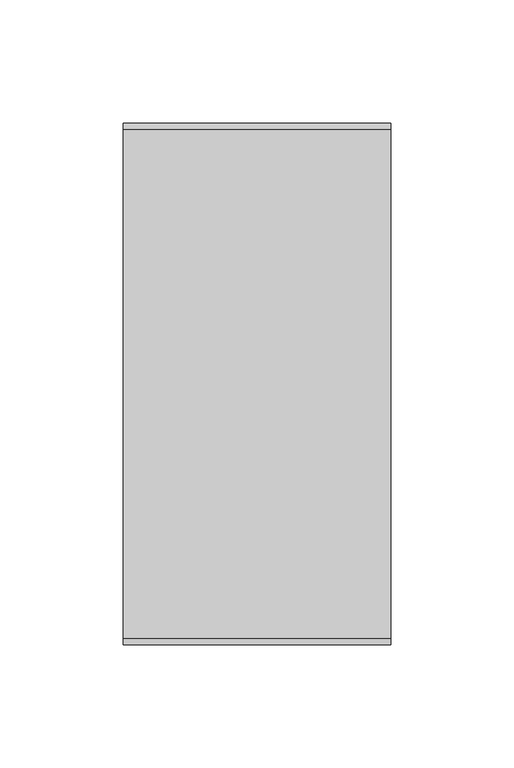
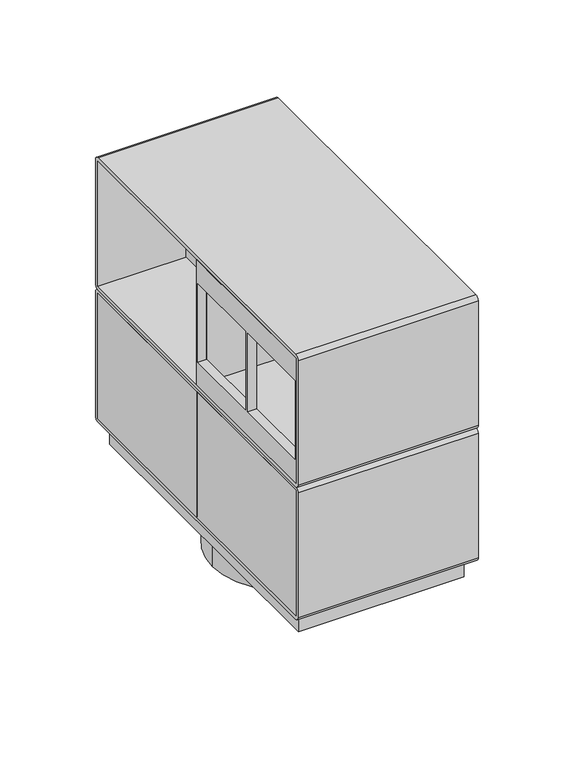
"""IFC4 building model written with IfcOpenShell, lengths in millimetres: proxy geometry, Electrical_Installation_Hager_VE-EE_Pedestal-box-8 : GB pedestal box 8 inst. fields iron gray."""

from ifc_helpers import new_model, si_unit, point, frame, frame_2d, origin, origin_with_axes, origin_2d, place, context, project, spatial, polyline, circle_curve, trimmed, segment, composite_curve, outline, extrude, source, transform, mapped, element, save


def electrical_fixtures_403837cc(model_context):
    return source(origin(), model_context, "Body", "SweptSolid", [
        extrude(outline(polyline([(1.25, -0.764292), (1.25, 0.764292), (48.9, 0.764292), (48.9, -0.764292), (1.25, -0.764292)])), frame((0.0, 0.0, 99.3), z_axis=(0.0, 0.0, 1.0), x_axis=(1.0, 0.0, 0.0)), (0.0, 0.0, 1.0), 79.9),
        extrude(outline(polyline([(-1.25, 0.764292), (-1.25, -0.764292), (-48.9, -0.764292), (-48.9, 0.764292), (-1.25, 0.764292)])), frame((0.0, 0.0, 99.3), z_axis=(0.0, 0.0, 1.0), x_axis=(1.0, 0.0, 0.0)), (0.0, 0.0, 1.0), 79.9),
        extrude(outline(polyline([(0.0, 179.2), (0.0, 99.3), (-103.7, 99.3), (-103.7, 179.2), (0.0, 179.2)]), holes=[polyline([(-52.935708, 164.25), (-102.935708, 164.25), (-102.935708, 114.25), (-52.935708, 114.25), (-52.935708, 164.25)]), polyline([(-50.764292, 164.25), (-50.764292, 114.25), (-0.764292, 114.25), (-0.764292, 164.25), (-50.764292, 164.25)])]), frame((-54.4, 0.0, 0.0), z_axis=(1.0, 0.0, 0.0), x_axis=(0.0, 1.0, 0.0)), (0.0, 0.0, 1.0), 5.5),
        extrude(outline(polyline([(0.0, 179.2), (103.7, 179.2), (103.7, 99.3), (0.0, 99.3), (0.0, 179.2)]), holes=[polyline([(52.935708, 164.25), (52.935708, 114.25), (102.935708, 114.25), (102.935708, 164.25), (52.935708, 164.25)]), polyline([(50.764292, 164.25), (0.764292, 164.25), (0.764292, 114.25), (50.764292, 114.25), (50.764292, 164.25)])]), frame((48.9, 0.0, 0.0), z_axis=(1.0, 0.0, 0.0), x_axis=(0.0, 1.0, 0.0)), (0.0, 0.0, 1.0), 5.5),
        extrude(outline(composite_curve([segment(polyline([(-103.5, 181.5), (103.5, 181.5)]), True, "CONTINUOUS"), segment(trimmed(circle_curve(frame_2d((103.5, 179.0)), 2.5), [point((103.5, 181.5))], [point((106.0, 179.0))], False, "CARTESIAN"), True, "CONTINUOUS"), segment(polyline([(106.0, 179.0), (106.0, 99.5)]), True, "CONTINUOUS"), segment(trimmed(circle_curve(frame_2d((103.5, 99.5)), 2.5), [point((106.0, 99.5))], [point((103.5, 97.0))], False, "CARTESIAN"), True, "CONTINUOUS"), segment(polyline([(103.5, 97.0), (-103.5, 97.0)]), True, "CONTINUOUS"), segment(trimmed(circle_curve(frame_2d((-103.5, 99.5)), 2.5), [point((-103.5, 97.0))], [point((-106.0, 99.5))], False, "CARTESIAN"), True, "CONTINUOUS"), segment(polyline([(-106.0, 99.5), (-106.0, 179.0)]), True, "CONTINUOUS"), segment(trimmed(circle_curve(frame_2d((-103.5, 179.0)), 2.5), [point((-106.0, 179.0))], [point((-103.5, 181.5))], False, "CARTESIAN"), True, "CONTINUOUS")], self_intersect=False), holes=[polyline([(-103.7, 179.2), (-103.7, 99.3), (103.7, 99.3), (103.7, 179.2), (-103.7, 179.2)])]), frame((-54.4, 0.0, 0.0), z_axis=(1.0, 0.0, 0.0), x_axis=(0.0, 1.0, 0.0)), (0.0, 0.0, 1.0), 108.8),
        extrude(outline(polyline([(1.25, 103.7), (1.25, -103.7), (-1.25, -103.7), (-1.25, 103.7), (1.25, 103.7)])), frame((0.0, 0.0, 99.3), z_axis=(0.0, 0.0, 1.0), x_axis=(1.0, 0.0, 0.0)), (0.0, 0.0, 1.0), 79.9),
        extrude(outline(polyline([(1.25, -0.764292), (1.25, 0.764292), (48.9, 0.764292), (48.9, -0.764292), (1.25, -0.764292)])), frame((0.0, 0.0, 14.8), z_axis=(0.0, 0.0, 1.0), x_axis=(1.0, 0.0, 0.0)), (0.0, 0.0, 1.0), 79.9),
        extrude(outline(polyline([(-1.25, 0.764292), (-1.25, -0.764292), (-48.9, -0.764292), (-48.9, 0.764292), (-1.25, 0.764292)])), frame((0.0, 0.0, 14.8), z_axis=(0.0, 0.0, 1.0), x_axis=(1.0, 0.0, 0.0)), (0.0, 0.0, 1.0), 79.9),
        extrude(outline(polyline([(-54.4, 0.0), (-54.4, 103.7), (-48.9, 103.7), (-48.9, 0.0), (-54.4, 0.0)])), frame((0.0, 0.0, 14.8), z_axis=(0.0, 0.0, 1.0), x_axis=(1.0, 0.0, 0.0)), (0.0, 0.0, 1.0), 79.9),
        extrude(outline(polyline([(-54.4, -103.7), (-54.4, 0.0), (-48.9, 0.0), (-48.9, -103.7), (-54.4, -103.7)])), frame((0.0, 0.0, 14.8), z_axis=(0.0, 0.0, 1.0), x_axis=(1.0, 0.0, 0.0)), (0.0, 0.0, 1.0), 79.9),
        extrude(outline(polyline([(0.0, 94.7), (103.7, 94.7), (103.7, 14.8), (0.0, 14.8), (0.0, 94.7)]), holes=[polyline([(52.935708, 79.75), (52.935708, 29.75), (102.935708, 29.75), (102.935708, 79.75), (52.935708, 79.75)]), polyline([(50.764292, 79.75), (0.764292, 79.75), (0.764292, 29.75), (50.764292, 29.75), (50.764292, 79.75)])]), frame((48.9, 0.0, 0.0), z_axis=(1.0, 0.0, 0.0), x_axis=(0.0, 1.0, 0.0)), (0.0, 0.0, 1.0), 5.5),
        extrude(outline(composite_curve([segment(polyline([(-103.5, 97.0), (103.5, 97.0)]), True, "CONTINUOUS"), segment(trimmed(circle_curve(frame_2d((103.5, 94.5)), 2.5), [point((103.5, 97.0))], [point((106.0, 94.5))], False, "CARTESIAN"), True, "CONTINUOUS"), segment(polyline([(106.0, 94.5), (106.0, 15.0)]), True, "CONTINUOUS"), segment(trimmed(circle_curve(frame_2d((103.5, 15.0)), 2.5), [point((106.0, 15.0))], [point((103.5, 12.5))], False, "CARTESIAN"), True, "CONTINUOUS"), segment(polyline([(103.5, 12.5), (-103.5, 12.5)]), True, "CONTINUOUS"), segment(trimmed(circle_curve(frame_2d((-103.5, 15.0)), 2.5), [point((-103.5, 12.5))], [point((-106.0, 15.0))], False, "CARTESIAN"), True, "CONTINUOUS"), segment(polyline([(-106.0, 15.0), (-106.0, 94.5)]), True, "CONTINUOUS"), segment(trimmed(circle_curve(frame_2d((-103.5, 94.5)), 2.5), [point((-106.0, 94.5))], [point((-103.5, 97.0))], False, "CARTESIAN"), True, "CONTINUOUS")], self_intersect=False), holes=[polyline([(-103.7, 94.7), (-103.7, 14.8), (103.7, 14.8), (103.7, 94.7), (-103.7, 94.7)])]), frame((-54.4, 0.0, 0.0), z_axis=(1.0, 0.0, 0.0), x_axis=(0.0, 1.0, 0.0)), (0.0, 0.0, 1.0), 108.8),
        extrude(outline(polyline([(54.4, 0.0), (54.4, -103.7), (48.9, -103.7), (48.9, 0.0), (54.4, 0.0)])), frame((0.0, 0.0, 14.8), z_axis=(0.0, 0.0, 1.0), x_axis=(1.0, 0.0, 0.0)), (0.0, 0.0, 1.0), 79.9),
        extrude(outline(composite_curve([segment(trimmed(circle_curve(origin_2d(), 45.0), [point((-45.0, 0.0))], [point((45.0, 0.0))], False, "CARTESIAN"), True, "CONTINUOUS"), segment(trimmed(circle_curve(origin_2d(), 45.0), [point((45.0, 0.0))], [point((-45.0, 0.0))], False, "CARTESIAN"), True, "CONTINUOUS")], self_intersect=False), holes=[composite_curve([segment(trimmed(circle_curve(origin_2d(), 27.5), [point((-27.5, 0.0))], [point((27.5, 0.0))], True, "CARTESIAN"), True, "CONTINUOUS"), segment(trimmed(circle_curve(origin_2d(), 27.5), [point((27.5, 0.0))], [point((-27.5, 0.0))], True, "CARTESIAN"), True, "CONTINUOUS")], self_intersect=False)]), frame((0.0, 0.0, -20.0), z_axis=(0.0, 0.0, 1.0), x_axis=(1.0, 0.0, 0.0)), (0.0, 0.0, 1.0), 20.0),
        extrude(outline(polyline([(1.25, 103.7), (1.25, -103.7), (-1.25, -103.7), (-1.25, 103.7), (1.25, 103.7)])), frame((0.0, 0.0, 14.8), z_axis=(0.0, 0.0, 1.0), x_axis=(1.0, 0.0, 0.0)), (0.0, 0.0, 1.0), 79.9),
        extrude(outline(polyline([(50.0, -98.7), (-50.0, -98.7), (-50.0, 98.7), (50.0, 98.7), (50.0, -98.7)]), holes=[composite_curve([segment(trimmed(circle_curve(frame_2d((-28.5912964, 0.7333267)), 5.0), [point((-24.4955362, 3.6012089))], [point((-25.7234143, -3.3624335))], False, "CARTESIAN"), True, "CONTINUOUS"), segment(polyline([(-25.7234143, -3.3624335), (-34.1678222, -9.2752716)]), True, "CONTINUOUS"), segment(trimmed(circle_curve(frame_2d((-31.29994, -13.3710318)), 5.0), [point((-34.1678222, -9.2752716))], [point((-35.8979613, -15.335262))], True, "CARTESIAN"), True, "CONTINUOUS"), segment(trimmed(circle_curve(origin_2d(), 39.0363149), [point((-35.8979613, -15.335262))], [point((-26.6882584, -28.4880808))], True, "CARTESIAN"), True, "CONTINUOUS"), segment(trimmed(circle_curve(frame_2d((-23.2698699, -24.8391604)), 5.0), [point((-26.6882584, -28.4880808))], [point((-20.4019877, -28.9349206))], True, "CARTESIAN"), True, "CONTINUOUS"), segment(polyline([(-20.4019877, -28.9349206), (-11.9575798, -23.0220826)]), True, "CONTINUOUS"), segment(trimmed(circle_curve(frame_2d((-9.0896976, -27.1178428)), 5.0), [point((-11.9575798, -23.0220826))], [point((-4.9939374, -24.2499606))], False, "CARTESIAN"), True, "CONTINUOUS"), segment(polyline([(-4.9939374, -24.2499606), (3.2975997, -36.0915028)]), True, "CONTINUOUS"), segment(trimmed(circle_curve(frame_2d((7.3933599, -33.2236206)), 5.0), [point((3.2975997, -36.0915028))], [point((8.4794587, -38.1042342))], True, "CARTESIAN"), True, "CONTINUOUS"), segment(trimmed(circle_curve(origin_2d(), 39.0363149), [point((8.4794587, -38.1042342))], [point((32.906122, -21.0005004))], True, "CARTESIAN"), True, "CONTINUOUS"), segment(trimmed(circle_curve(frame_2d((28.6913131, -18.3106332)), 5.0), [point((32.906122, -21.0005004))], [point((32.7870733, -15.442751))], True, "CARTESIAN"), True, "CONTINUOUS"), segment(polyline([(32.7870733, -15.442751), (24.4955362, -3.6012089)]), True, "CONTINUOUS"), segment(trimmed(circle_curve(frame_2d((28.5912964, -0.7333267)), 5.0), [point((24.4955362, -3.6012089))], [point((25.7234143, 3.3624335))], False, "CARTESIAN"), True, "CONTINUOUS"), segment(polyline([(25.7234143, 3.3624335), (34.1678222, 9.2752716)]), True, "CONTINUOUS"), segment(trimmed(circle_curve(frame_2d((31.29994, 13.3710318)), 5.0), [point((34.1678222, 9.2752716))], [point((35.8979613, 15.335262))], True, "CARTESIAN"), True, "CONTINUOUS"), segment(trimmed(circle_curve(origin_2d(), 39.0363149), [point((35.8979613, 15.335262))], [point((26.6882584, 28.4880808))], True, "CARTESIAN"), True, "CONTINUOUS"), segment(trimmed(circle_curve(frame_2d((23.2698699, 24.8391604)), 5.0), [point((26.6882584, 28.4880808))], [point((20.4019877, 28.9349206))], True, "CARTESIAN"), True, "CONTINUOUS"), segment(polyline([(20.4019877, 28.9349206), (11.9575798, 23.0220826)]), True, "CONTINUOUS"), segment(trimmed(circle_curve(frame_2d((9.0896976, 27.1178428)), 5.0), [point((11.9575798, 23.0220826))], [point((4.9939374, 24.2499606))], False, "CARTESIAN"), True, "CONTINUOUS"), segment(polyline([(4.9939374, 24.2499606), (-3.2975997, 36.0915028)]), True, "CONTINUOUS"), segment(trimmed(circle_curve(frame_2d((-7.3933599, 33.2236206)), 5.0), [point((-3.2975997, 36.0915028))], [point((-8.4794587, 38.1042342))], True, "CARTESIAN"), True, "CONTINUOUS"), segment(trimmed(circle_curve(origin_2d(), 39.0363149), [point((-8.4794587, 38.1042342))], [point((-32.906122, 21.0005004))], True, "CARTESIAN"), True, "CONTINUOUS"), segment(trimmed(circle_curve(frame_2d((-28.6913131, 18.3106332)), 5.0), [point((-32.906122, 21.0005004))], [point((-32.7870733, 15.442751))], True, "CARTESIAN"), True, "CONTINUOUS"), segment(polyline([(-32.7870733, 15.442751), (-24.4955362, 3.6012089)]), True, "CONTINUOUS")], self_intersect=False)]), origin_with_axes(), (0.0, 0.0, 1.0), 12.5),
    ])


if __name__ == "__main__":
    model = new_model("IFC4")
    model_context = context("Model", 3, world=origin())
    ifc_project = project(units=[si_unit("LENGTHUNIT", "METRE", prefix="MILLI")], contexts=[model_context])
    site = spatial("IfcSite", under=ifc_project)
    building = spatial("IfcBuilding", under=site)
    placement = place(None, origin())
    electrical_fixtures_shape = electrical_fixtures_403837cc(model_context)
    element("IfcBuildingElementProxy", 1, Name="Electrical_Installation_Hager_VE-EE_Pedestal-box-8 : GB pedestal box 8 inst. fields iron gray", ObjectType="Electrical_Installation_Hager_VE-EE_Pedestal-box-8 : GB pedestal box 8 inst. fields iron gray", at=placement, inside=building, context=model_context, shape_type="MappedRepresentation", body=[
        mapped(electrical_fixtures_shape, transform((0.0, 0.0, 0.0), x_axis=(1.0, 0.0, 0.0), y_axis=(0.0, 1.0, 0.0), z_axis=(0.0, 0.0, 1.0))),
    ])
    save(model, "model.ifc")
